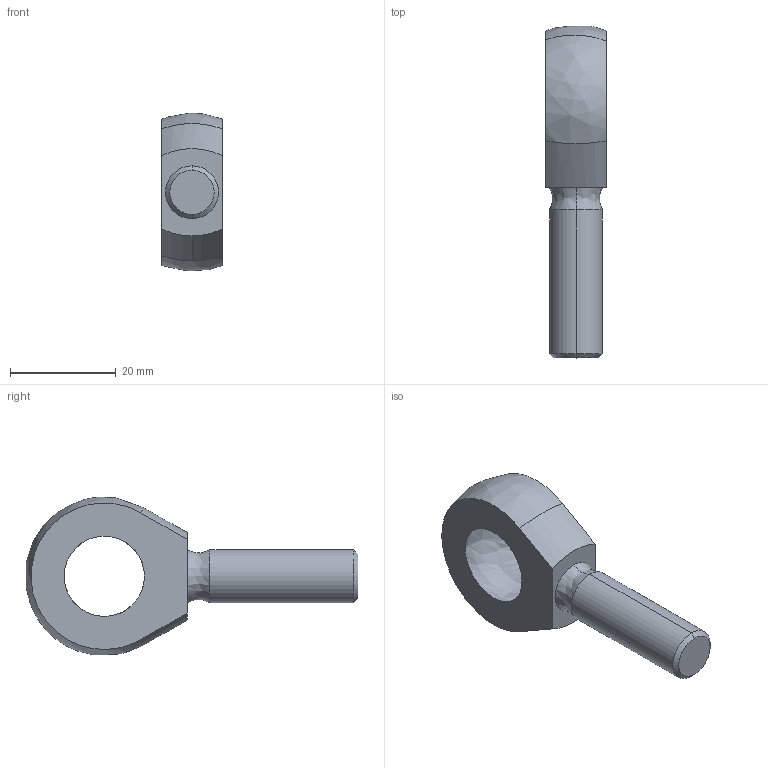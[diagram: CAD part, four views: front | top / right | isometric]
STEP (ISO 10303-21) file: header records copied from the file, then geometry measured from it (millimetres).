
FILE_DESCRIPTION (( 'STEP AP214' ), '1' );
FILE_NAME ('Rotule1.STEP', '2005-04-08T10:07:08', ( 'frantz' ), ( '' ), 'SwSTEP 2.0', 'SolidWorks 2004104', '' );
FILE_SCHEMA (( 'AUTOMOTIVE_DESIGN' ));
Length unit declared in the file: centimetre
Products named in the file (1): Rotule1
Bounding box: 11.5 x 62.8 x 29.84 mm (x, y, z)
Volume: 7789.4 mm3; surface area: 3753.6 mm2
Topology: 1 solids, 1 shells, 17 faces, 38 edges, 24 vertices
Faces by surface type: bspline 6, cylinder 5, plane 4, cone 2
Entity records: 861 total; most frequent: CARTESIAN_POINT 487, ORIENTED_EDGE 76, DIRECTION 67, EDGE_CURVE 38, AXIS2_PLACEMENT_3D 28, VERTEX_POINT 24, EDGE_LOOP 20, ADVANCED_FACE 17
